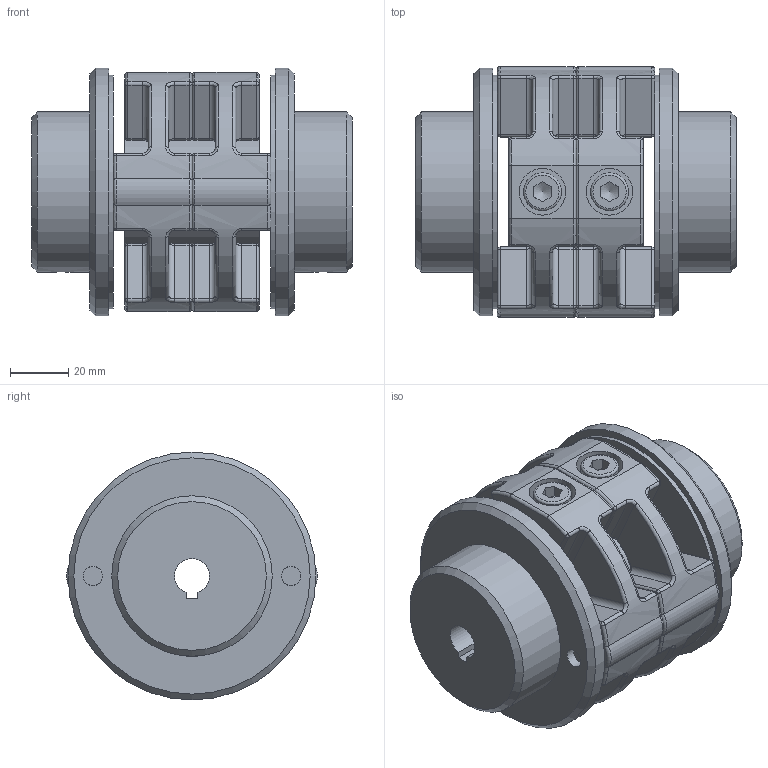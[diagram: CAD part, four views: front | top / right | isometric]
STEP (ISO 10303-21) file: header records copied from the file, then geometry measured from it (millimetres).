
FILE_DESCRIPTION(/* description */ (''),/* implementation_level */ '2;1');
FILE_NAME(/* name */ 'GX02-L54-12-PF-12-PF',/* time_stamp */ '2024-01-05T15:33:59+01:00',/* author */ ('M. Horlacher'),/* organization */ (''),/* preprocessor_version */ 'ST-DEVELOPER v20',/* originating_system */ 'Autodesk Inventor 2024',/* authorisation */ '');
FILE_SCHEMA (('AUTOMOTIVE_DESIGN { 1 0 10303 214 3 1 1 }'));
Length unit declared in the file: millimetre
Products named in the file (8): RP STEP; VE Rohr Dummy; GX02-Nabe; GX02 Befestigungssatz ST; 080305-1406s; 110305-0741s; ISO 4762 - M8 x 20 - 8.8 - VZ A1A; GX02-Nabe_1
Assembly tree (11 placements, depth 3):
  RP STEP
    VE Rohr Dummy
    GX02 Befestigungssatz ST  x2
      080305-1406s
      110305-0741s
      ISO 4762 - M8 x 20 - 8.8 - VZ A1A
    GX02-Nabe
    GX02-Nabe_1
Bounding box: 110 x 85.95 x 85 mm (x, y, z)
Volume: 342308.5 mm3; surface area: 106709.1 mm2
Topology: 15 solids, 15 shells, 634 faces, 1504 edges, 848 vertices
Faces by surface type: cylinder 206, plane 174, torus 104, sphere 64, bspline 64, cone 22
Full cylindrical faces by diameter (mm): 4.917 x2, 6.647 x8, 8 x16, 13 x12, 16 x4, 24 x2, 37 x3, 40 x3, 55 x2, 80 x2, 85 x2
Entity records: 9881 total; most frequent: CARTESIAN_POINT 2994, DIRECTION 1441, ORIENTED_EDGE 1328, EDGE_CURVE 664, AXIS2_PLACEMENT_3D 606, VERTEX_POINT 388, EDGE_LOOP 332, CIRCLE 322
